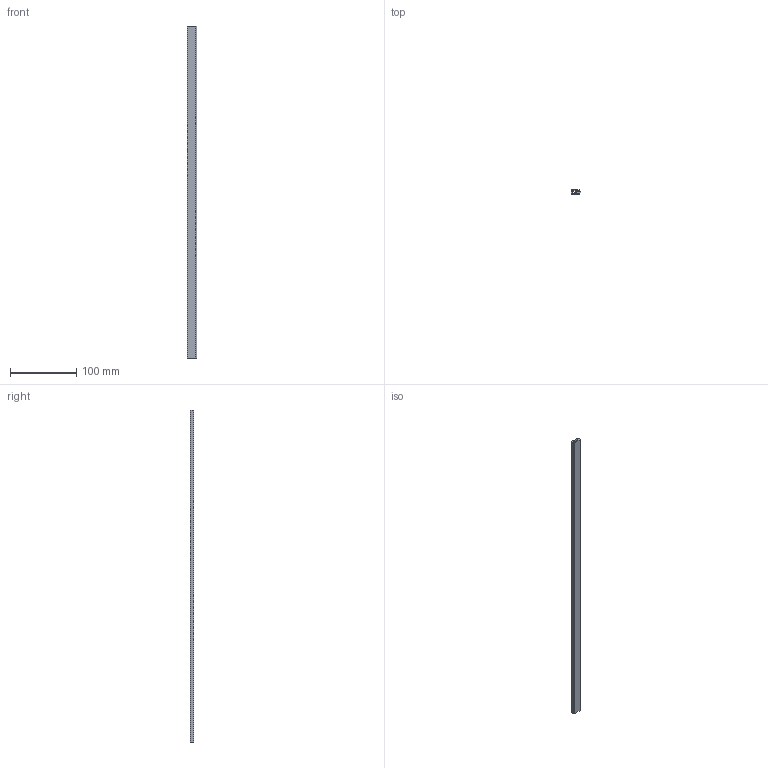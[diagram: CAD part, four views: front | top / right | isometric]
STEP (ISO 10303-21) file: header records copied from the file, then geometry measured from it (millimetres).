
FILE_DESCRIPTION (( 'STEP AP214' ), '1' );
FILE_NAME ('FASR-25.STEP', '2011-05-09T06:07:19', ( '.' ), ( '' ), 'SwSTEP 2.0', 'SolidWorks 2010', '' );
FILE_SCHEMA (( 'AUTOMOTIVE_DESIGN' ));
Length unit declared in the file: millimetre
Products named in the file (1): FASR-25
Bounding box: 14.8 x 5.5 x 500 mm (x, y, z)
Volume: 23761.7 mm3; surface area: 30672.7 mm2
Topology: 1 solids, 1 shells, 18 faces, 48 edges, 32 vertices
Faces by surface type: plane 12, cylinder 6
Entity records: 598 total; most frequent: CARTESIAN_POINT 99, DIRECTION 98, ORIENTED_EDGE 96, EDGE_CURVE 48, VECTOR 36, LINE 36, VERTEX_POINT 32, AXIS2_PLACEMENT_3D 31
